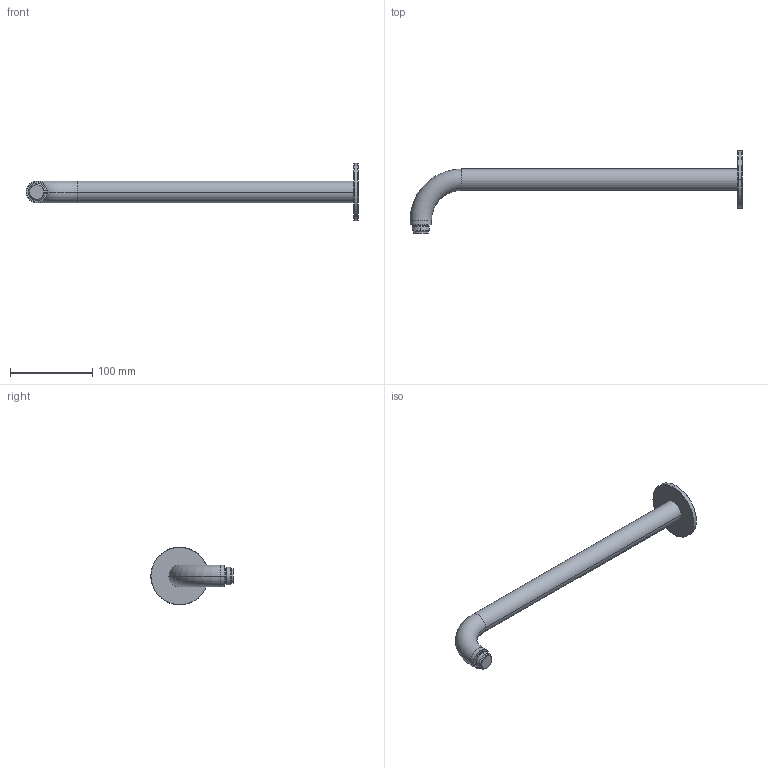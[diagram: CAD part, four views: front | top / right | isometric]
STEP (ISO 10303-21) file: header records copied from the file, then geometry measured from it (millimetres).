
FILE_DESCRIPTION((''),'2;1');
FILE_NAME('76607--00_SUB01_SW0001','2026-10-06T09:26:52',('simi1'),(''),'CREO PARAMETRIC BY PTC INC, 2022244','CREO PARAMETRIC BY PTC INC, 2022244','');
FILE_SCHEMA(('CONFIG_CONTROL_DESIGN'));
Length unit declared in the file: millimetre
Products named in the file (1): 76607--00_SUB01_SW0001
Bounding box: 403 x 100 x 70 mm (x, y, z)
Surface area: 45826 mm2 (no closed solid volume)
Topology: 0 solids, 4 shells, 33 faces, 63 edges, 36 vertices
Faces by surface type: cylinder 12, cone 8, torus 7, plane 6
Entity records: 862 total; most frequent: DIRECTION 172, CARTESIAN_POINT 132, ORIENTED_EDGE 120, AXIS2_PLACEMENT_3D 76, EDGE_CURVE 63, CIRCLE 43, VERTEX_POINT 36, EDGE_LOOP 33
